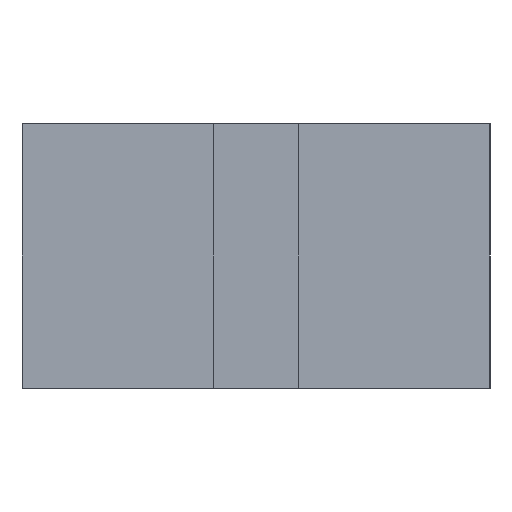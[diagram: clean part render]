
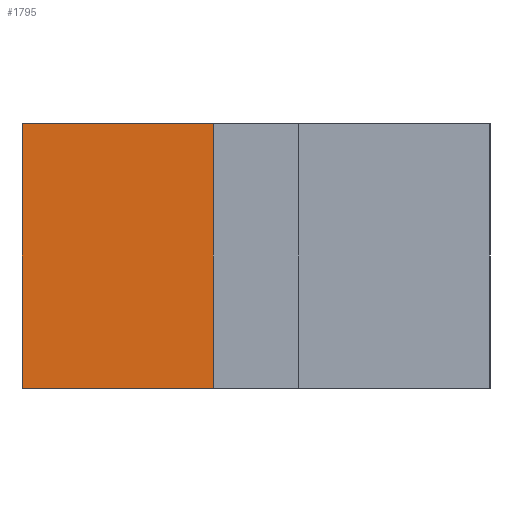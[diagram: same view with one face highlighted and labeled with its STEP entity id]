
A CAD part, front view. The second image highlights one B-rep face of the part: STEP entity #1795.
In plain terms, the highlighted planar face has unit normal (0, -1, 0).
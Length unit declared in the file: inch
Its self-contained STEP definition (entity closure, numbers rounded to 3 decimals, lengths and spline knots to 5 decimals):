
#1739=CARTESIAN_POINT('',(-0.16142,-0.88583,1.0));
#1740=VERTEX_POINT('',#1739);
#1747=CARTESIAN_POINT('',(-0.16142,-0.88583,0.0));
#1748=VERTEX_POINT('',#1747);
#1749=CARTESIAN_POINT('',(-0.16142,-0.88583,0.0));
#1750=DIRECTION('',(0.0,0.0,1.0));
#1751=VECTOR('',#1750,1.0);
#1752=LINE('',#1749,#1751);
#1753=EDGE_CURVE('',#1748,#1740,#1752,.T.);
#1765=CARTESIAN_POINT('',(-0.16142,-0.88583,0.0));
#1766=DIRECTION('',(0.0,-1.0,0.0));
#1767=DIRECTION('',(0.0,0.0,-1.0));
#1768=AXIS2_PLACEMENT_3D('',#1765,#1766,#1767);
#1769=PLANE('',#1768);
#1770=CARTESIAN_POINT('',(-0.88583,-0.88583,1.0));
#1771=VERTEX_POINT('',#1770);
#1772=CARTESIAN_POINT('',(-0.16142,-0.88583,1.0));
#1773=DIRECTION('',(-1.0,0.0,0.0));
#1774=VECTOR('',#1773,0.72441);
#1775=LINE('',#1772,#1774);
#1776=EDGE_CURVE('',#1740,#1771,#1775,.T.);
#1777=ORIENTED_EDGE('',*,*,#1776,.T.);
#1778=CARTESIAN_POINT('',(-0.88583,-0.88583,0.0));
#1779=VERTEX_POINT('',#1778);
#1780=CARTESIAN_POINT('',(-0.88583,-0.88583,0.0));
#1781=DIRECTION('',(0.0,0.0,1.0));
#1782=VECTOR('',#1781,1.0);
#1783=LINE('',#1780,#1782);
#1784=EDGE_CURVE('',#1779,#1771,#1783,.T.);
#1785=ORIENTED_EDGE('',*,*,#1784,.F.);
#1786=CARTESIAN_POINT('',(-0.88583,-0.88583,0.0));
#1787=DIRECTION('',(1.0,0.0,0.0));
#1788=VECTOR('',#1787,0.72441);
#1789=LINE('',#1786,#1788);
#1790=EDGE_CURVE('',#1779,#1748,#1789,.T.);
#1791=ORIENTED_EDGE('',*,*,#1790,.T.);
#1792=ORIENTED_EDGE('',*,*,#1753,.T.);
#1793=EDGE_LOOP('',(#1777,#1785,#1791,#1792));
#1794=FACE_OUTER_BOUND('',#1793,.T.);
#1795=ADVANCED_FACE('',(#1794),#1769,.T.);
